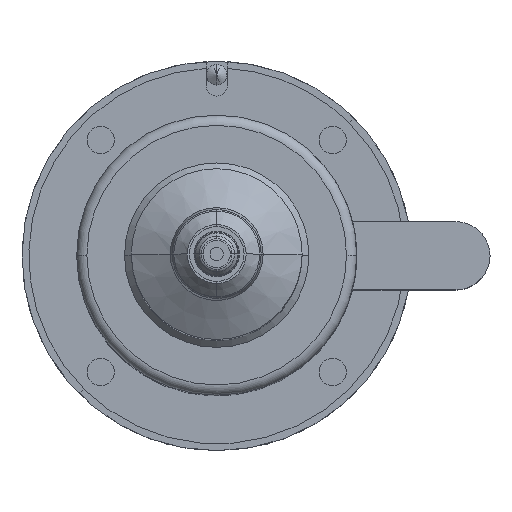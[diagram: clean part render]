
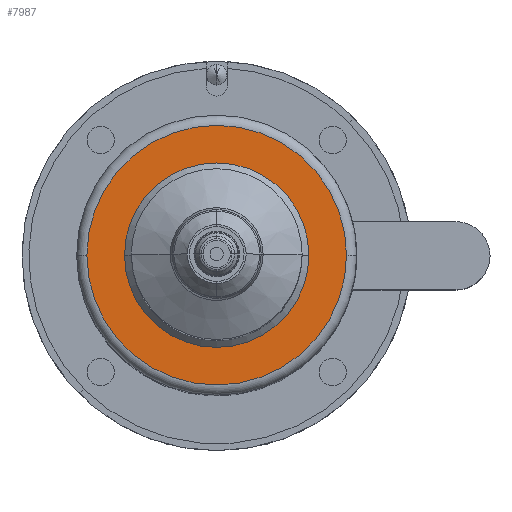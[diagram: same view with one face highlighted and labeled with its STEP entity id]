
A CAD part, top view. The second image highlights one B-rep face of the part: STEP entity #7987.
In plain terms, the highlighted planar face has unit normal (0, 0, 1).
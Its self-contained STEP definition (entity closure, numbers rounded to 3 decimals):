
#519 = CIRCLE ( 'NONE', #2426, 27. ) ;
#610 = CIRCLE ( 'NONE', #2403, 27. ) ;
#663 = CIRCLE ( 'NONE', #2425, 38. ) ;
#796 = CIRCLE ( 'NONE', #2404, 38. ) ;
#1838 = EDGE_CURVE ( 'NONE', #13001, #13129, #610, .T. ) ;
#1840 = EDGE_CURVE ( 'NONE', #13101, #13025, #796, .T. ) ;
#1881 = EDGE_CURVE ( 'NONE', #13025, #13101, #663, .T. ) ;
#1882 = EDGE_CURVE ( 'NONE', #13129, #13001, #519, .T. ) ;
#2403 = AXIS2_PLACEMENT_3D ( 'NONE', #14223, #14222, #14221 ) ;
#2404 = AXIS2_PLACEMENT_3D ( 'NONE', #14218, #14217, #14216 ) ;
#2425 = AXIS2_PLACEMENT_3D ( 'NONE', #14112, #14111, #14110 ) ;
#2426 = AXIS2_PLACEMENT_3D ( 'NONE', #14109, #14108, #14107 ) ;
#3920 = DIRECTION ( 'NONE',  ( -1., 0., 0. ) ) ;
#3921 = DIRECTION ( 'NONE',  ( 0., 0., -1. ) ) ;
#3922 = CARTESIAN_POINT ( 'NONE',  ( 0., 27., 151. ) ) ;
#3923 = PLANE ( 'NONE',  #7371 ) ;
#6218 = ORIENTED_EDGE ( 'NONE', *, *, #1881, .F. ) ;
#6219 = ORIENTED_EDGE ( 'NONE', *, *, #1838, .T. ) ;
#6220 = ORIENTED_EDGE ( 'NONE', *, *, #1882, .T. ) ;
#6223 = ORIENTED_EDGE ( 'NONE', *, *, #1840, .F. ) ;
#6559 = EDGE_LOOP ( 'NONE', ( #6223, #6218 ) ) ;
#6560 = EDGE_LOOP ( 'NONE', ( #6219, #6220 ) ) ;
#7371 = AXIS2_PLACEMENT_3D ( 'NONE', #3922, #3921, #3920 ) ;
#7987 = ADVANCED_FACE ( 'NONE', ( #9811, #9810 ), #3923, .F. ) ;
#9810 = FACE_BOUND ( 'NONE', #6560, .T. ) ;
#9811 = FACE_OUTER_BOUND ( 'NONE', #6559, .T. ) ;
#13001 = VERTEX_POINT ( 'NONE', #15993 ) ;
#13025 = VERTEX_POINT ( 'NONE', #15970 ) ;
#13101 = VERTEX_POINT ( 'NONE', #15918 ) ;
#13129 = VERTEX_POINT ( 'NONE', #15895 ) ;
#14107 = DIRECTION ( 'NONE',  ( -1., 0., 0. ) ) ;
#14108 = DIRECTION ( 'NONE',  ( 0., 0., -1. ) ) ;
#14109 = CARTESIAN_POINT ( 'NONE',  ( 0., 0., 151. ) ) ;
#14110 = DIRECTION ( 'NONE',  ( -1., 0., 0. ) ) ;
#14111 = DIRECTION ( 'NONE',  ( 0., 0., -1. ) ) ;
#14112 = CARTESIAN_POINT ( 'NONE',  ( 0., 0., 151. ) ) ;
#14216 = DIRECTION ( 'NONE',  ( -1., 0., 0. ) ) ;
#14217 = DIRECTION ( 'NONE',  ( 0., 0., -1. ) ) ;
#14218 = CARTESIAN_POINT ( 'NONE',  ( 0., 0., 151. ) ) ;
#14221 = DIRECTION ( 'NONE',  ( -1., 0., 0. ) ) ;
#14222 = DIRECTION ( 'NONE',  ( 0., 0., -1. ) ) ;
#14223 = CARTESIAN_POINT ( 'NONE',  ( 0., 0., 151. ) ) ;
#15895 = CARTESIAN_POINT ( 'NONE',  ( 27., 0., 151. ) ) ;
#15918 = CARTESIAN_POINT ( 'NONE',  ( -38., 0., 151. ) ) ;
#15970 = CARTESIAN_POINT ( 'NONE',  ( 38., 0., 151. ) ) ;
#15993 = CARTESIAN_POINT ( 'NONE',  ( -27., 0., 151. ) ) ;
